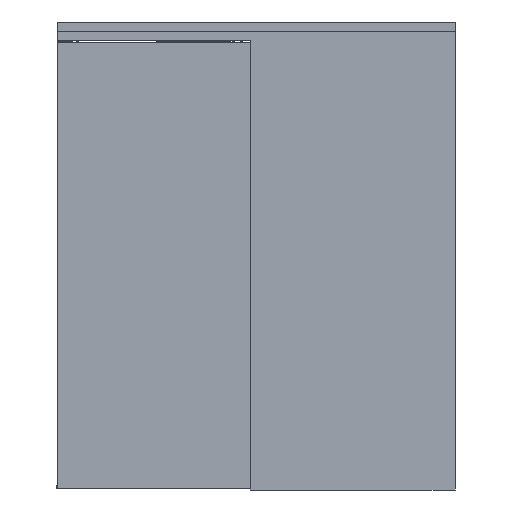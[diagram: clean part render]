
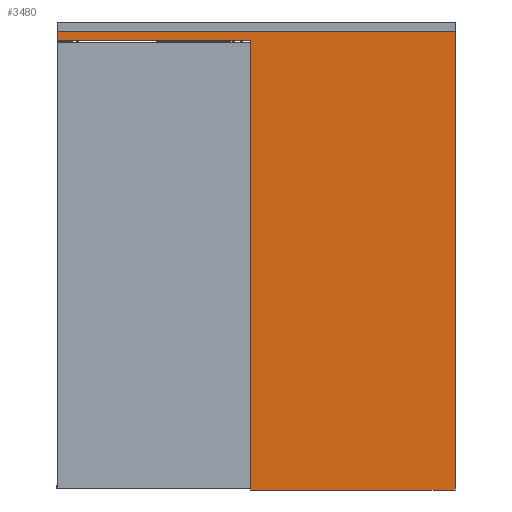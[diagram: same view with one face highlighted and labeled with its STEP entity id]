
A CAD part, front view. The second image highlights one B-rep face of the part: STEP entity #3480.
In plain terms, the highlighted planar face has unit normal (0, -1, 0).
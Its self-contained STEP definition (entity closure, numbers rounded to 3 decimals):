
#3480=ADVANCED_FACE('',(#7126),#7127,.F.);
#7126=FACE_OUTER_BOUND('',#10843,.T.);
#7127=PLANE('',#10844);
#10843=EDGE_LOOP('',(#20184,#20185,#20186,#20187,#20188,#20189));
#10844=AXIS2_PLACEMENT_3D('',#20190,#20191,#20192);
#20184=ORIENTED_EDGE('',*,*,#25450,.T.);
#20185=ORIENTED_EDGE('',*,*,#25440,.F.);
#20186=ORIENTED_EDGE('',*,*,#25444,.F.);
#20187=ORIENTED_EDGE('',*,*,#25448,.T.);
#20188=ORIENTED_EDGE('',*,*,#25451,.F.);
#20189=ORIENTED_EDGE('',*,*,#25452,.F.);
#20190=CARTESIAN_POINT('',(0.0,-44.,2333.0));
#20191=DIRECTION('',(0.0,1.0,-0.0));
#20192=DIRECTION('',(0.0,0.0,1.0));
#25440=EDGE_CURVE('',#31142,#31137,#31144,.T.);
#25444=EDGE_CURVE('',#31148,#31142,#31150,.T.);
#25448=EDGE_CURVE('',#31148,#31154,#31156,.T.);
#25450=EDGE_CURVE('',#31158,#31137,#31159,.T.);
#25451=EDGE_CURVE('',#31160,#31154,#31161,.T.);
#25452=EDGE_CURVE('',#31158,#31160,#31162,.T.);
#31137=VERTEX_POINT('',#38752);
#31142=VERTEX_POINT('',#38759);
#31144=LINE('',#38762,#38763);
#31148=VERTEX_POINT('',#38768);
#31150=LINE('',#38771,#38772);
#31154=VERTEX_POINT('',#38777);
#31156=LINE('',#38780,#38781);
#31158=VERTEX_POINT('',#38783);
#31159=LINE('',#38784,#38785);
#31160=VERTEX_POINT('',#38786);
#31161=LINE('',#38787,#38788);
#31162=LINE('',#38789,#38790);
#38752=CARTESIAN_POINT('',(995.0,-44.,2312.5));
#38759=CARTESIAN_POINT('',(995.0,-44.,0.0));
#38762=CARTESIAN_POINT('',(995.0,-44.,7.0));
#38763=VECTOR('',#44481,1.0);
#38768=CARTESIAN_POINT('',(2050.0,-44.,0.0));
#38771=CARTESIAN_POINT('',(1327.5,-44.,0.0));
#38772=VECTOR('',#44484,1.0);
#38777=CARTESIAN_POINT('',(2050.0,-44.,2360.0));
#38780=CARTESIAN_POINT('',(2050.0,-44.,7.0));
#38781=VECTOR('',#44487,1.0);
#38783=CARTESIAN_POINT('',(0.0,-44.,2312.5));
#38784=CARTESIAN_POINT('',(0.0,-44.,2312.5));
#38785=VECTOR('',#44488,1.0);
#38786=CARTESIAN_POINT('',(0.0,-44.,2360.0));
#38787=CARTESIAN_POINT('',(1270.0,-44.,2360.0));
#38788=VECTOR('',#44489,1.0);
#38789=CARTESIAN_POINT('',(0.0,-44.,2301.0));
#38790=VECTOR('',#44490,1.0);
#44481=DIRECTION('',(0.0,0.0,1.0));
#44484=DIRECTION('',(-1.0,0.0,0.0));
#44487=DIRECTION('',(0.0,0.0,1.0));
#44488=DIRECTION('',(1.0,0.0,0.0));
#44489=DIRECTION('',(1.0,0.0,0.0));
#44490=DIRECTION('',(0.0,0.0,1.0));
